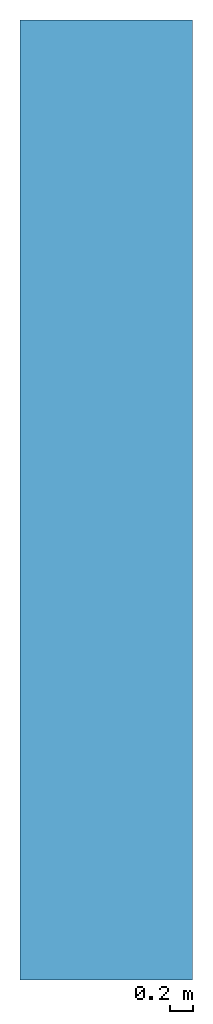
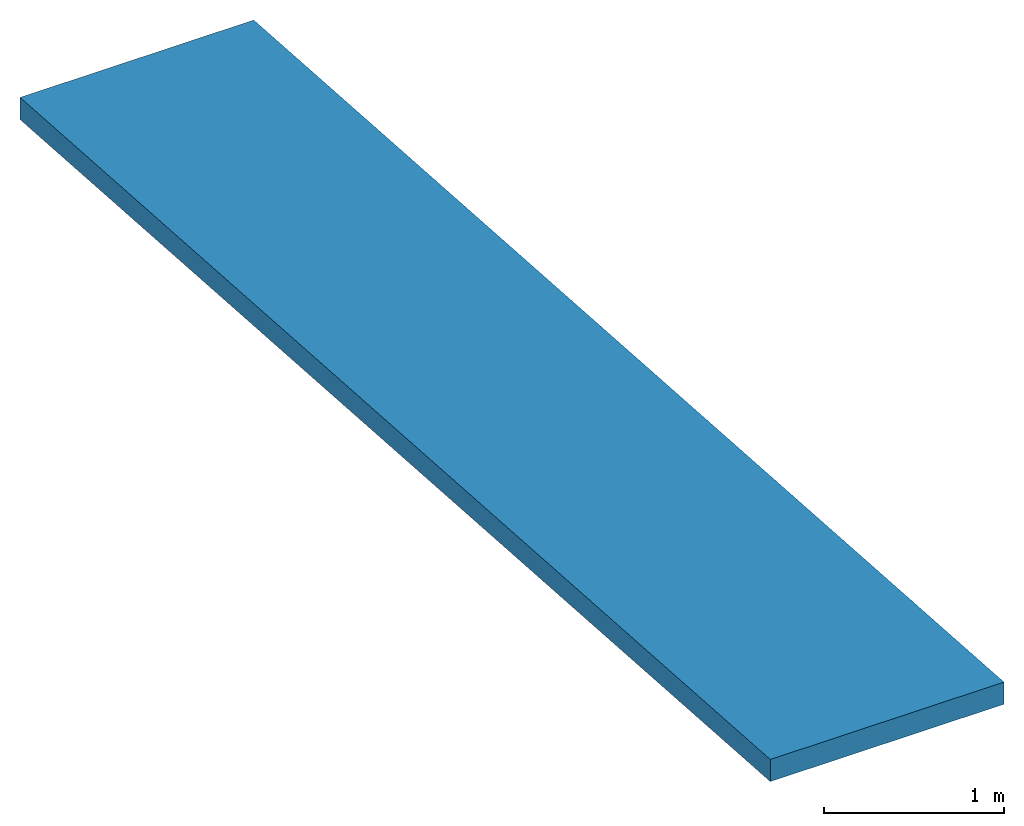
# One storey: 1 ramp, 1 element without a shape of its own.
"""IFC2X3 building model written with IfcOpenShell, lengths in centimetres."""

from ifc_helpers import new_model, entity, si_unit, converted_unit, derived_unit, direction, frame, origin, place, context, subcontext, project, spatial, polyline, outline, extrude, material, element, aggregate, save


model = new_model("IFC2X3")

# Units and contexts
model_context = context("Model", 3, precision=0.001, world=origin(), true_north=direction((6.12303176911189e-17, 1.0)))
body_context = subcontext(model_context, "Body", "Model", "MODEL_VIEW")
ifc_project = project(units=[si_unit("LENGTHUNIT", "METRE", prefix="CENTI"), si_unit("AREAUNIT", "SQUARE_METRE"), si_unit("VOLUMEUNIT", "CUBIC_METRE"), converted_unit("PLANEANGLEUNIT", "DEGREE", entity("IfcRatioMeasure", 0.0174532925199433), si_unit("PLANEANGLEUNIT", "RADIAN"), dimensions=[0, 0, 0, 0, 0, 0, 0]), si_unit("MASSUNIT", "GRAM", prefix="KILO"), si_unit("TIMEUNIT", "SECOND"), si_unit("FREQUENCYUNIT", "HERTZ"), si_unit("THERMODYNAMICTEMPERATUREUNIT", "DEGREE_CELSIUS"), derived_unit("THERMALTRANSMITTANCEUNIT", [(si_unit("MASSUNIT", "GRAM", prefix="KILO"), 1), (si_unit("THERMODYNAMICTEMPERATUREUNIT", "KELVIN"), -1), (si_unit("TIMEUNIT", "SECOND"), -3)]), derived_unit("VOLUMETRICFLOWRATEUNIT", [(si_unit("LENGTHUNIT", "METRE"), 3), (si_unit("TIMEUNIT", "SECOND"), -1)]), si_unit("ELECTRICCURRENTUNIT", "AMPERE"), si_unit("ELECTRICVOLTAGEUNIT", "VOLT"), si_unit("POWERUNIT", "WATT"), si_unit("FORCEUNIT", "NEWTON", prefix="KILO"), si_unit("ILLUMINANCEUNIT", "LUX"), si_unit("LUMINOUSFLUXUNIT", "LUMEN"), si_unit("LUMINOUSINTENSITYUNIT", "CANDELA"), derived_unit("USERDEFINED", [(si_unit("MASSUNIT", "GRAM", prefix="KILO"), -1), (si_unit("LENGTHUNIT", "METRE"), -2), (si_unit("TIMEUNIT", "SECOND"), 3), (si_unit("LUMINOUSFLUXUNIT", "LUMEN"), 1)]), derived_unit("LINEARVELOCITYUNIT", [(si_unit("LENGTHUNIT", "METRE"), 1), (si_unit("TIMEUNIT", "SECOND"), -1)]), si_unit("PRESSUREUNIT", "PASCAL"), derived_unit("USERDEFINED", [(si_unit("LENGTHUNIT", "METRE"), -2), (si_unit("MASSUNIT", "GRAM", prefix="KILO"), 1), (si_unit("TIMEUNIT", "SECOND"), -2)])], contexts=[model_context])

# Site, building, storey
site_placement = place(None, frame((8.62739174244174, -249.285249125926, 0.0)))
site = spatial("IfcSite", under=ifc_project, at=site_placement, Name="Default", CompositionType="ELEMENT")
building_placement = place(site_placement, origin())
building = spatial("IfcBuilding", under=site, at=building_placement, CompositionType="ELEMENT")
storey_placement = place(building_placement, frame((0.0, 0.0, -77.0)))
storey = spatial("IfcBuildingStorey", under=building, at=storey_placement, Name="-77", CompositionType="ELEMENT", Elevation=-77.0000000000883)

# Ramps
ramp_1_placement = place(storey_placement, origin())
ramp_1 = element("IfcRamp", 1, at=ramp_1_placement, inside=storey, Name="Rampe d'accès:Rampe d'accès Béton - 150 mm - 6%", ObjectType="Rampe d'accès:Rampe d'accès Béton - 150 mm - 6%", ShapeType="NOTDEFINED")
ifc_material = material(Name="Maçonnerie - Béton")
ramp_2_placement = place(ramp_1_placement, origin())
ramp_2 = element("IfcRamp", 2, at=ramp_2_placement, material=ifc_material, Name="Rampe d'accès:Rampe d'accès Béton - 150 mm - 6%", ObjectType="Rampe d'accès:Rampe d'accès Béton - 150 mm - 6%", ShapeType="NOTDEFINED", context=body_context, shape_type="SweptSolid", body=[
    extrude(outline(polyline([(-35.7671909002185, -417.0), (-20.7328090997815, -417.0), (35.7671909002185, 417.0), (20.7328090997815, 417.0), (-35.7671909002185, -417.0)])), frame((3998.90482781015, 828.980208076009, 41.2328090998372), z_axis=(1.0, 0.0, 0.0), x_axis=(0.0, 0.0, -1.0)), (0.0, 0.0, 1.0), 150.000001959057),
])
aggregate(ramp_1, [ramp_2])

save(model, "model.ifc")
